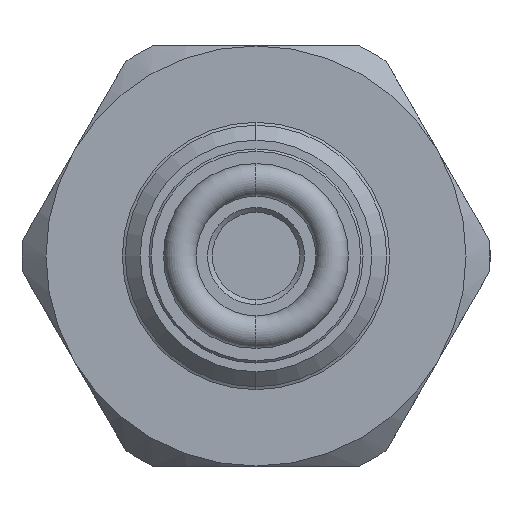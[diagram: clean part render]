
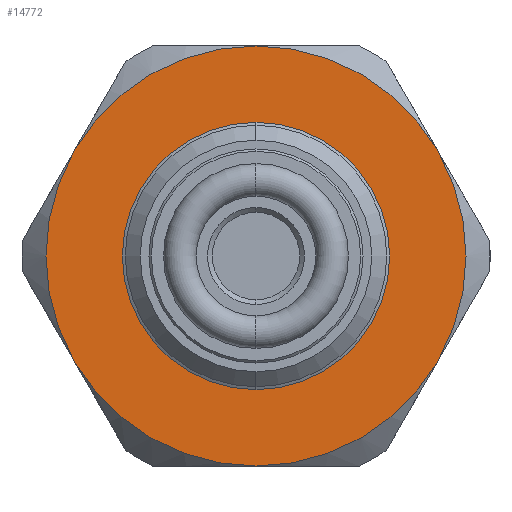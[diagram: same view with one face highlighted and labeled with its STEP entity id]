
A CAD part, left-side view. The second image highlights one B-rep face of the part: STEP entity #14772.
In plain terms, the highlighted planar face has unit normal (-1, 0, 0).
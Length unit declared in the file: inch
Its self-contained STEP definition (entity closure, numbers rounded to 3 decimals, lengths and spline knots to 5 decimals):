
#216 = CARTESIAN_POINT ( 'NONE',  ( 0.6175, 0.37889, -0.21875 ) ) ;
#271 = CIRCLE ( 'NONE', #7001, 0.4375 ) ;
#500 = DIRECTION ( 'NONE',  ( 0., 0., 1. ) ) ;
#533 = VERTEX_POINT ( 'NONE', #13445 ) ;
#572 = DIRECTION ( 'NONE',  ( 0., 0., 1. ) ) ;
#800 = EDGE_CURVE ( 'NONE', #533, #13243, #9999, .T. ) ;
#1094 = DIRECTION ( 'NONE',  ( 0., 0., 1. ) ) ;
#1520 = CARTESIAN_POINT ( 'NONE',  ( 0.6175, 0., 0. ) ) ;
#1736 = CARTESIAN_POINT ( 'NONE',  ( 0.6175, 0., 0. ) ) ;
#1770 = AXIS2_PLACEMENT_3D ( 'NONE', #7507, #8933, #1094 ) ;
#1787 = EDGE_CURVE ( 'NONE', #1901, #13942, #6275, .T. ) ;
#1890 = DIRECTION ( 'NONE',  ( -1., 0., 0. ) ) ;
#1901 = VERTEX_POINT ( 'NONE', #15867 ) ;
#2189 = CIRCLE ( 'NONE', #11607, 0.4375 ) ;
#2285 = EDGE_LOOP ( 'NONE', ( #14942, #12085 ) ) ;
#2338 = EDGE_LOOP ( 'NONE', ( #4327, #2432, #7572, #7103, #10325, #10407 ) ) ;
#2432 = ORIENTED_EDGE ( 'NONE', *, *, #1787, .T. ) ;
#2624 = AXIS2_PLACEMENT_3D ( 'NONE', #7219, #11262, #12361 ) ;
#2792 = FACE_BOUND ( 'NONE', #2285, .T. ) ;
#3108 = PLANE ( 'NONE',  #4492 ) ;
#3267 = CARTESIAN_POINT ( 'NONE',  ( 0.6175, 0., -0.271 ) ) ;
#3269 = AXIS2_PLACEMENT_3D ( 'NONE', #13290, #12036, #572 ) ;
#3640 = CARTESIAN_POINT ( 'NONE',  ( 0.6175, 0., 0. ) ) ;
#3888 = EDGE_CURVE ( 'NONE', #8467, #4251, #4745, .T. ) ;
#4178 = CARTESIAN_POINT ( 'NONE',  ( 0.6175, 0., -0.4375 ) ) ;
#4251 = VERTEX_POINT ( 'NONE', #4178 ) ;
#4327 = ORIENTED_EDGE ( 'NONE', *, *, #5902, .T. ) ;
#4492 = AXIS2_PLACEMENT_3D ( 'NONE', #1520, #12052, #500 ) ;
#4745 = CIRCLE ( 'NONE', #1770, 0.4375 ) ;
#4839 = CARTESIAN_POINT ( 'NONE',  ( 0.6175, -0.37889, 0.21875 ) ) ;
#5902 = EDGE_CURVE ( 'NONE', #13243, #1901, #2189, .T. ) ;
#6275 = CIRCLE ( 'NONE', #9512, 0.4375 ) ;
#6294 = CARTESIAN_POINT ( 'NONE',  ( 0.6175, 0., 0. ) ) ;
#6453 = DIRECTION ( 'NONE',  ( -1., 0., 0. ) ) ;
#6774 = EDGE_CURVE ( 'NONE', #13942, #8467, #15660, .T. ) ;
#6879 = DIRECTION ( 'NONE',  ( -1., 0., 0. ) ) ;
#6997 = AXIS2_PLACEMENT_3D ( 'NONE', #10281, #15405, #9005 ) ;
#7001 = AXIS2_PLACEMENT_3D ( 'NONE', #3640, #8784, #8705 ) ;
#7103 = ORIENTED_EDGE ( 'NONE', *, *, #3888, .T. ) ;
#7219 = CARTESIAN_POINT ( 'NONE',  ( 0.6175, 0., 0. ) ) ;
#7507 = CARTESIAN_POINT ( 'NONE',  ( 0.6175, 0., 0. ) ) ;
#7572 = ORIENTED_EDGE ( 'NONE', *, *, #6774, .T. ) ;
#7801 = CIRCLE ( 'NONE', #6997, 0.271 ) ;
#8288 = VERTEX_POINT ( 'NONE', #3267 ) ;
#8413 = AXIS2_PLACEMENT_3D ( 'NONE', #1736, #6879, #10768 ) ;
#8467 = VERTEX_POINT ( 'NONE', #216 ) ;
#8705 = DIRECTION ( 'NONE',  ( 0., 0., 1. ) ) ;
#8784 = DIRECTION ( 'NONE',  ( -1., 0., 0. ) ) ;
#8933 = DIRECTION ( 'NONE',  ( -1., 0., 0. ) ) ;
#9005 = DIRECTION ( 'NONE',  ( 0., 0., 1. ) ) ;
#9154 = EDGE_CURVE ( 'NONE', #8288, #11163, #7801, .T. ) ;
#9202 = FACE_OUTER_BOUND ( 'NONE', #2338, .T. ) ;
#9512 = AXIS2_PLACEMENT_3D ( 'NONE', #15954, #1890, #9570 ) ;
#9570 = DIRECTION ( 'NONE',  ( 0., 0., 1. ) ) ;
#9904 = CIRCLE ( 'NONE', #2624, 0.271 ) ;
#9999 = CIRCLE ( 'NONE', #3269, 0.4375 ) ;
#10281 = CARTESIAN_POINT ( 'NONE',  ( 0.6175, 0., 0. ) ) ;
#10325 = ORIENTED_EDGE ( 'NONE', *, *, #13593, .T. ) ;
#10407 = ORIENTED_EDGE ( 'NONE', *, *, #800, .T. ) ;
#10768 = DIRECTION ( 'NONE',  ( 0., 0., 1. ) ) ;
#10797 = EDGE_CURVE ( 'NONE', #11163, #8288, #9904, .T. ) ;
#11163 = VERTEX_POINT ( 'NONE', #11842 ) ;
#11262 = DIRECTION ( 'NONE',  ( 1., 0., 0. ) ) ;
#11607 = AXIS2_PLACEMENT_3D ( 'NONE', #6294, #6453, #13031 ) ;
#11842 = CARTESIAN_POINT ( 'NONE',  ( 0.6175, 0., 0.271 ) ) ;
#12036 = DIRECTION ( 'NONE',  ( -1., 0., 0. ) ) ;
#12052 = DIRECTION ( 'NONE',  ( -1., 0., 0. ) ) ;
#12085 = ORIENTED_EDGE ( 'NONE', *, *, #9154, .T. ) ;
#12361 = DIRECTION ( 'NONE',  ( 0., 0., 1. ) ) ;
#13031 = DIRECTION ( 'NONE',  ( 0., 0., 1. ) ) ;
#13243 = VERTEX_POINT ( 'NONE', #4839 ) ;
#13290 = CARTESIAN_POINT ( 'NONE',  ( 0.6175, 0., 0. ) ) ;
#13445 = CARTESIAN_POINT ( 'NONE',  ( 0.6175, -0.37889, -0.21875 ) ) ;
#13593 = EDGE_CURVE ( 'NONE', #4251, #533, #271, .T. ) ;
#13904 = CARTESIAN_POINT ( 'NONE',  ( 0.6175, 0.37889, 0.21875 ) ) ;
#13942 = VERTEX_POINT ( 'NONE', #13904 ) ;
#14772 = ADVANCED_FACE ( 'NONE', ( #2792, #9202 ), #3108, .T. ) ;
#14942 = ORIENTED_EDGE ( 'NONE', *, *, #10797, .T. ) ;
#15405 = DIRECTION ( 'NONE',  ( 1., 0., 0. ) ) ;
#15660 = CIRCLE ( 'NONE', #8413, 0.4375 ) ;
#15867 = CARTESIAN_POINT ( 'NONE',  ( 0.6175, 0., 0.4375 ) ) ;
#15954 = CARTESIAN_POINT ( 'NONE',  ( 0.6175, 0., 0. ) ) ;
